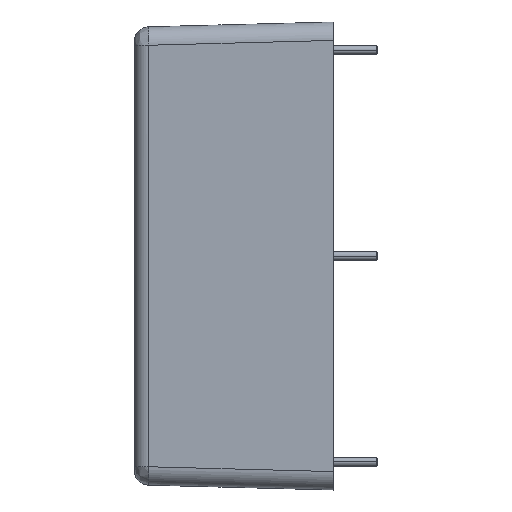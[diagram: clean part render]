
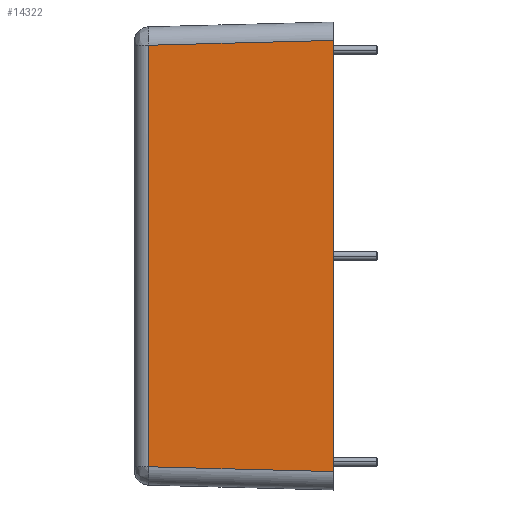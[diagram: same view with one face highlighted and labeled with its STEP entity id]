
A CAD part, left-side view. The second image highlights one B-rep face of the part: STEP entity #14322.
In plain terms, the highlighted planar face has unit normal (-1, 0.026, 0).
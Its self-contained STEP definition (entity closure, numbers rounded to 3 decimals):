
#218 = VECTOR ( 'NONE', #17751, 1000. ) ;
#1154 = LINE ( 'NONE', #9094, #2028 ) ;
#1192 = CARTESIAN_POINT ( 'NONE',  ( -44.5, 0., 29.251 ) ) ;
#1511 = CARTESIAN_POINT ( 'NONE',  ( -44.5, 0., -29.251 ) ) ;
#2028 = VECTOR ( 'NONE', #11618, 1000. ) ;
#3045 = VERTEX_POINT ( 'NONE', #1511 ) ;
#3219 = LINE ( 'NONE', #23214, #218 ) ;
#4295 = PLANE ( 'NONE',  #32335 ) ;
#4781 = DIRECTION ( 'NONE',  ( -1., 0.026, 0. ) ) ;
#5240 = ORIENTED_EDGE ( 'NONE', *, *, #26031, .T. ) ;
#6967 = ORIENTED_EDGE ( 'NONE', *, *, #9330, .T. ) ;
#9094 = CARTESIAN_POINT ( 'NONE',  ( -43.844, 25.052, 31.75 ) ) ;
#9330 = EDGE_CURVE ( 'NONE', #21132, #3045, #33916, .T. ) ;
#10146 = EDGE_CURVE ( 'NONE', #16037, #25629, #3219, .T. ) ;
#10521 = VECTOR ( 'NONE', #34593, 1000. ) ;
#11123 = EDGE_CURVE ( 'NONE', #3045, #25629, #12226, .T. ) ;
#11618 = DIRECTION ( 'NONE',  ( 0., 0., -1. ) ) ;
#12226 = LINE ( 'NONE', #12865, #10521 ) ;
#12865 = CARTESIAN_POINT ( 'NONE',  ( -44.5, 0., 0. ) ) ;
#12944 = DIRECTION ( 'NONE',  ( 0.026, 1., 0. ) ) ;
#14322 = ADVANCED_FACE ( 'NONE', ( #22845 ), #4295, .T. ) ;
#16037 = VERTEX_POINT ( 'NONE', #16663 ) ;
#16611 = EDGE_LOOP ( 'NONE', ( #19183, #23316, #5240, #6967 ) ) ;
#16663 = CARTESIAN_POINT ( 'NONE',  ( -43.844, 25.052, 28.595 ) ) ;
#17751 = DIRECTION ( 'NONE',  ( -0.026, -0.999, 0.026 ) ) ;
#18722 = CARTESIAN_POINT ( 'NONE',  ( -44.5, 0., 31.75 ) ) ;
#19183 = ORIENTED_EDGE ( 'NONE', *, *, #11123, .T. ) ;
#21132 = VERTEX_POINT ( 'NONE', #24466 ) ;
#22845 = FACE_OUTER_BOUND ( 'NONE', #16611, .T. ) ;
#23214 = CARTESIAN_POINT ( 'NONE',  ( -44.471, 1.098, 29.222 ) ) ;
#23316 = ORIENTED_EDGE ( 'NONE', *, *, #10146, .F. ) ;
#24466 = CARTESIAN_POINT ( 'NONE',  ( -43.844, 25.052, -28.595 ) ) ;
#25629 = VERTEX_POINT ( 'NONE', #1192 ) ;
#26031 = EDGE_CURVE ( 'NONE', #16037, #21132, #1154, .T. ) ;
#26689 = CARTESIAN_POINT ( 'NONE',  ( -43.844, 25.052, -28.595 ) ) ;
#28342 = VECTOR ( 'NONE', #30061, 1000. ) ;
#30061 = DIRECTION ( 'NONE',  ( -0.026, -0.999, -0.026 ) ) ;
#32335 = AXIS2_PLACEMENT_3D ( 'NONE', #18722, #4781, #12944 ) ;
#33916 = LINE ( 'NONE', #26689, #28342 ) ;
#34593 = DIRECTION ( 'NONE',  ( 0., 0., 1. ) ) ;
